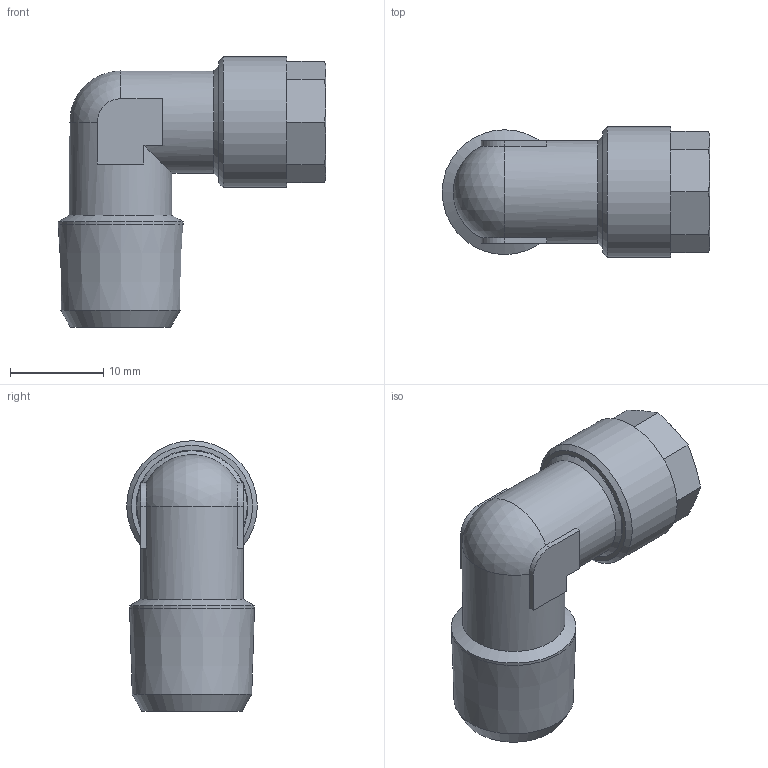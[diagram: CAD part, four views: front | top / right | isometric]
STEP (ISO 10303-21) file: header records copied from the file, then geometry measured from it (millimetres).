
FILE_DESCRIPTION(/* description */ (''),/* implementation_level */ '2;1');
FILE_NAME(/* name */ '11007_305_86_R14_18.07.17',/* time_stamp */ '2017-07-18T12:10:05+02:00',/* author */ (''),/* organization */ (''),/* preprocessor_version */ 'ST-DEVELOPER v16.5',/* originating_system */ 'HiCAD 2016 2102.2 Build 618',/* authorisation */ '');
FILE_SCHEMA (('AUTOMOTIVE_DESIGN { 1 0 10303 214 1 1 1 1 }'));
Length unit declared in the file: millimetre
Products named in the file (3): Root; R11007; 17006
Assembly tree (2 placements, depth 2):
  Root
    R11007
    17006
Bounding box: 28.69 x 14 x 29 mm (x, y, z)
Volume: 3933.7 mm3; surface area: 3478.5 mm2
Topology: 2 solids, 2 shells, 71 faces, 165 edges, 101 vertices
Faces by surface type: plane 33, cone 22, cylinder 14, sphere 1, torus 1
Full cylindrical faces by diameter (mm): 5 x2, 6.5 x1, 8 x2, 10.773 x1, 11 x2, 12 x1, 13.388 x1, 14 x1
Entity records: 5474 total; most frequent: CARTESIAN_POINT 2638, DIRECTION 346, PRESENTATION_STYLE_ASSIGNMENT 260, COLOUR_RGB 259, DRAUGHTING_PRE_DEFINED_CURVE_FONT 258, CURVE_STYLE 258, OVER_RIDING_STYLED_ITEM 258, ORIENTED_EDGE 258
